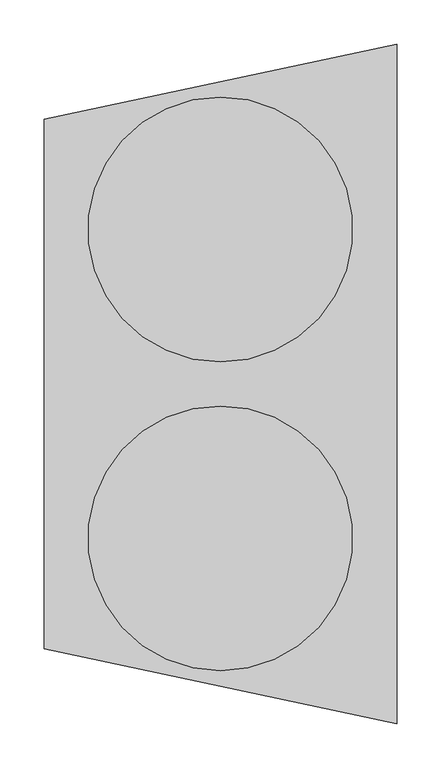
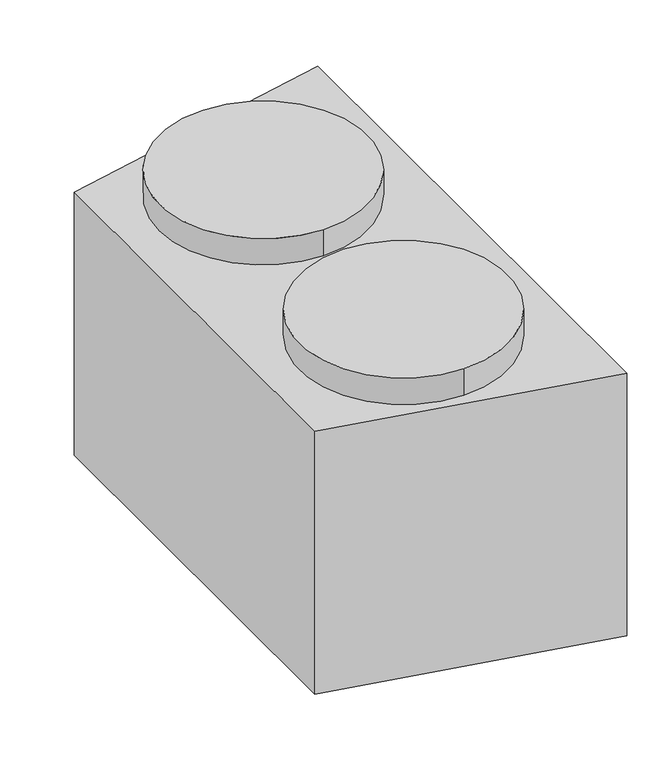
"""IFC4 building model written with IfcOpenShell, lengths in millimetres: duct fitting geometry, BL_Адаптер-НТ_ВерхНижПрямПрисоединение : BL_Адаптер-НТ_ВерхНижПрямПрисоединение."""

from ifc_helpers import new_model, si_unit, point, frame, frame_2d, origin, place, context, project, spatial, polyline, circle_curve, trimmed, segment, composite_curve, outline, extrude, source, transform, mapped, element, save


def duct_fitting_114b5d4b(model_context):
    return source(origin(), model_context, "Body", "SweptSolid", [
        extrude(outline(composite_curve([segment(trimmed(circle_curve(frame_2d((200.0, -175.0)), 150.0), [point((200.0, -25.0))], [point((200.0, -325.0))], False, "CARTESIAN"), True, "CONTINUOUS"), segment(trimmed(circle_curve(frame_2d((200.0, -175.0)), 150.0), [point((200.0, -325.0))], [point((200.0, -25.0))], False, "CARTESIAN"), True, "CONTINUOUS")], self_intersect=False)), frame((0.0, 0.0, 200.0), z_axis=(0.0, 0.0, 1.0), x_axis=(1.0, 0.0, 0.0)), (0.0, 0.0, 1.0), 40.0),
        extrude(outline(composite_curve([segment(trimmed(circle_curve(frame_2d((200.0, 175.0)), 150.0), [point((200.0, 325.0))], [point((200.0, 25.0))], False, "CARTESIAN"), True, "CONTINUOUS"), segment(trimmed(circle_curve(frame_2d((200.0, 175.0)), 150.0), [point((200.0, 25.0))], [point((200.0, 325.0))], False, "CARTESIAN"), True, "CONTINUOUS")], self_intersect=False)), frame((0.0, 0.0, 200.0), z_axis=(0.0, 0.0, 1.0), x_axis=(1.0, 0.0, 0.0)), (0.0, 0.0, 1.0), 40.0),
        extrude(outline(polyline([(0.0, -300.0), (0.0, 300.0), (400.0, 385.0), (400.0, -385.0), (0.0, -300.0)])), frame((0.0, 0.0, -200.0), z_axis=(0.0, 0.0, 1.0), x_axis=(1.0, 0.0, 0.0)), (0.0, 0.0, 1.0), 400.0),
    ])


if __name__ == "__main__":
    model = new_model("IFC4")
    model_context = context("Model", 3, world=origin())
    ifc_project = project(units=[si_unit("LENGTHUNIT", "METRE", prefix="MILLI")], contexts=[model_context])
    site = spatial("IfcSite", under=ifc_project)
    building = spatial("IfcBuilding", under=site)
    placement = place(None, origin())
    duct_fitting_shape = duct_fitting_114b5d4b(model_context)
    element("IfcDuctFitting", 1, ObjectType="BL_Адаптер-НТ_ВерхНижПрямПрисоединение : BL_Адаптер-НТ_ВерхНижПрямПрисоединение", at=placement, inside=building, context=model_context, shape_type="MappedRepresentation", body=[
        mapped(duct_fitting_shape, transform((0.0, 0.0, 0.0), x_axis=(1.0, 0.0, 0.0), y_axis=(0.0, 1.0, 0.0), z_axis=(0.0, 0.0, 1.0))),
    ])
    save(model, "model.ifc")
